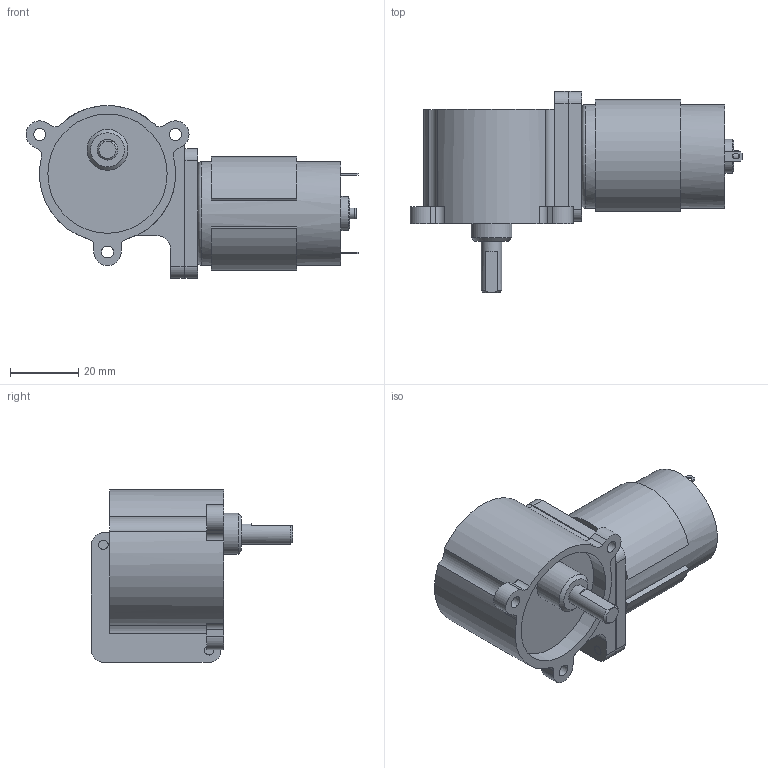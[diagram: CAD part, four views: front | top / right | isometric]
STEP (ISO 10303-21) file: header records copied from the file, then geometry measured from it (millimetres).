
FILE_DESCRIPTION(/* description */ (''),/* implementation_level */ '2;1');
FILE_NAME(/* name */ 'TP-3442#-KW.stp',/* time_stamp */ '2023-10-26T11:15:43+09:00',/* author */ ('user'),/* organization */ (''),/* preprocessor_version */ 'ST-DEVELOPER v19.2',/* originating_system */ 'Autodesk Inventor 2024',/* authorisation */ '');
FILE_SCHEMA (('AUTOMOTIVE_DESIGN { 1 0 10303 214 3 1 1 }'));
Length unit declared in the file: millimetre
Products named in the file (3): TP-3442#-KW-J00-24; kw; TP-3442#(RS-435PV)
Assembly tree (2 placements, depth 2):
  TP-3442#-KW-J00-24
    kw
    TP-3442#(RS-435PV)
Bounding box: 97.42 x 59 x 50.63 mm (x, y, z)
Volume: 85395.8 mm3; surface area: 17861.5 mm2
Topology: 2 solids, 2 shells, 188 faces, 447 edges, 293 vertices
Faces by surface type: plane 94, cylinder 78, torus 9, cone 7
Full cylindrical faces by diameter (mm): 1.5 x1, 2 x2, 2.459 x2, 2.5 x1, 2.6 x4, 2.75 x2, 3.17 x2, 3.5 x3, 6 x3, 8 x1, 8.3 x1, 9.9 x1, 10 x2, 12 x1, 29.4 x1, 30.4 x1, 35 x1
Entity records: 5702 total; most frequent: DIRECTION 1026, CARTESIAN_POINT 935, ORIENTED_EDGE 890, EDGE_CURVE 445, AXIS2_PLACEMENT_3D 390, VERTEX_POINT 293, LINE 246, VECTOR 246
